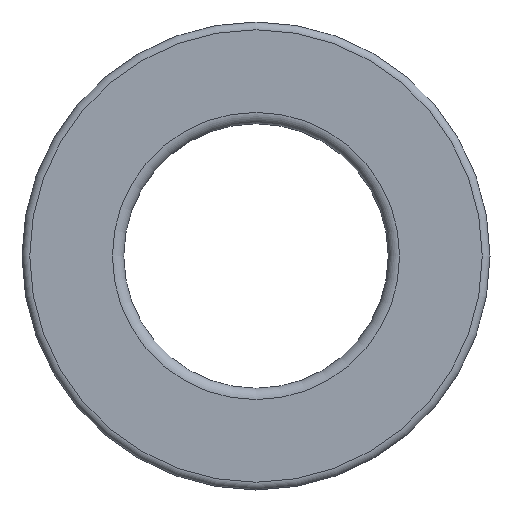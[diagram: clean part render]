
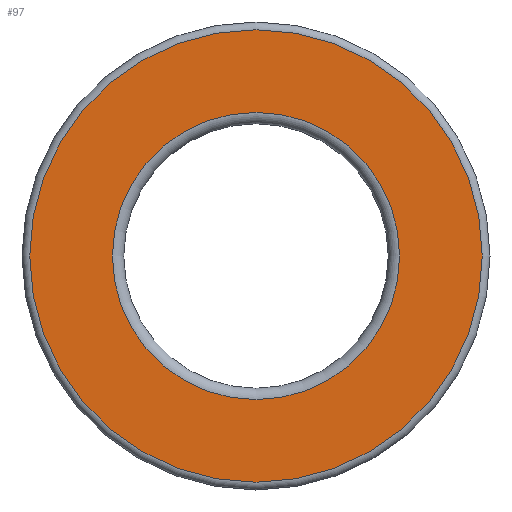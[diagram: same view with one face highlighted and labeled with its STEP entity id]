
A CAD part, left-side view. The second image highlights one B-rep face of the part: STEP entity #97.
In plain terms, the highlighted planar face has unit normal (-1, 0, 0).
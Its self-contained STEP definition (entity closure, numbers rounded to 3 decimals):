
#97=ADVANCED_FACE('',(#166,#167),#168,.F.);
#166=FACE_BOUND('',#238,.T.);
#167=FACE_OUTER_BOUND('',#239,.T.);
#168=PLANE('',#240);
#238=EDGE_LOOP('',(#354));
#239=EDGE_LOOP('',(#355));
#240=AXIS2_PLACEMENT_3D('',#356,#357,#358);
#354=ORIENTED_EDGE('',*,*,#386,.F.);
#355=ORIENTED_EDGE('',*,*,#387,.T.);
#356=CARTESIAN_POINT('',(0.0,11.119,0.0));
#357=DIRECTION('',(1.0,0.0,0.0));
#358=DIRECTION('',(0.0,0.0,-1.0));
#386=EDGE_CURVE('',#432,#432,#433,.T.);
#387=EDGE_CURVE('',#434,#434,#435,.T.);
#432=VERTEX_POINT('',#480);
#433=CIRCLE('',#481,7.058);
#434=VERTEX_POINT('',#482);
#435=CIRCLE('',#483,11.119);
#480=CARTESIAN_POINT('',(0.0,0.0,7.058));
#481=AXIS2_PLACEMENT_3D('',#550,#551,#552);
#482=CARTESIAN_POINT('',(0.0,0.0,11.119));
#483=AXIS2_PLACEMENT_3D('',#553,#554,#555);
#550=CARTESIAN_POINT('',(0.0,0.0,0.0));
#551=DIRECTION('',(-1.0,0.0,0.0));
#552=DIRECTION('',(0.0,0.0,1.0));
#553=CARTESIAN_POINT('',(0.0,0.0,0.0));
#554=DIRECTION('',(-1.0,0.0,0.0));
#555=DIRECTION('',(0.0,0.0,1.0));
